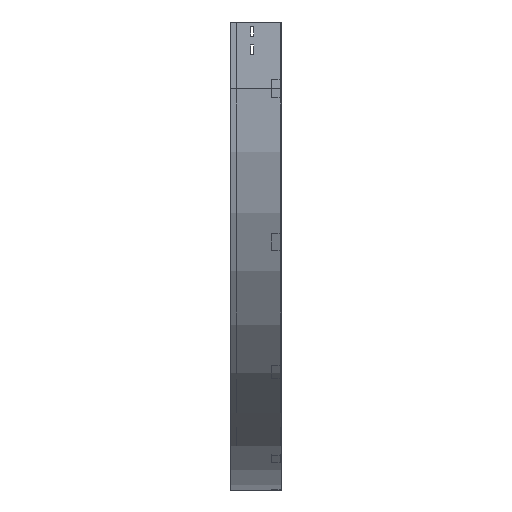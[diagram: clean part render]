
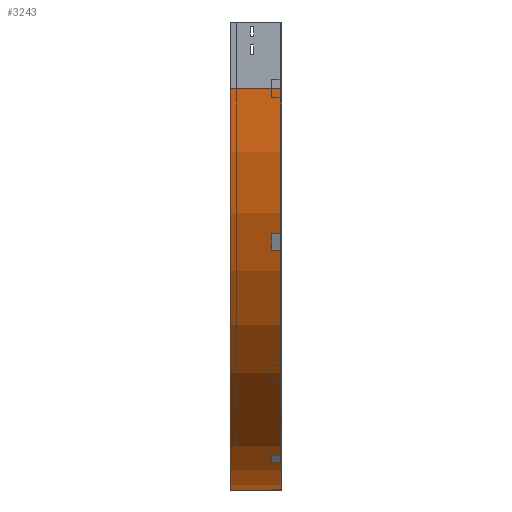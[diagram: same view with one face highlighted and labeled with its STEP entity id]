
A CAD part, left-side view. The second image highlights one B-rep face of the part: STEP entity #3243.
In plain terms, the highlighted cylindrical face has radius 900 mm (diameter 1800 mm), a partial arc.
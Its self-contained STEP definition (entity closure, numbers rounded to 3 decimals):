
#18 = DIRECTION ( 'NONE',  ( 0., -1., 0. ) ) ;
#71 = CARTESIAN_POINT ( 'NONE',  ( 900., 112.5, -1050. ) ) ;
#233 = ORIENTED_EDGE ( 'NONE', *, *, #2459, .F. ) ;
#267 = AXIS2_PLACEMENT_3D ( 'NONE', #2770, #443, #369 ) ;
#347 = VERTEX_POINT ( 'NONE', #71 ) ;
#369 = DIRECTION ( 'NONE',  ( 0., 0., -1. ) ) ;
#429 = AXIS2_PLACEMENT_3D ( 'NONE', #1132, #18, #915 ) ;
#443 = DIRECTION ( 'NONE',  ( 0., -1., 0. ) ) ;
#532 = LINE ( 'NONE', #2708, #2876 ) ;
#659 = DIRECTION ( 'NONE',  ( 0., -1., 0. ) ) ;
#685 = DIRECTION ( 'NONE',  ( 0., -1., 0. ) ) ;
#915 = DIRECTION ( 'NONE',  ( -1., 0., 0. ) ) ;
#959 = VERTEX_POINT ( 'NONE', #3001 ) ;
#1029 = CYLINDRICAL_SURFACE ( 'NONE', #267, 900. ) ;
#1050 = EDGE_CURVE ( 'NONE', #347, #959, #532, .T. ) ;
#1053 = EDGE_CURVE ( 'NONE', #2275, #347, #1181, .T. ) ;
#1089 = ORIENTED_EDGE ( 'NONE', *, *, #1050, .T. ) ;
#1132 = CARTESIAN_POINT ( 'NONE',  ( 900., 112.5, -150. ) ) ;
#1181 = CIRCLE ( 'NONE', #429, 900. ) ;
#1204 = VECTOR ( 'NONE', #659, 1000. ) ;
#1234 = EDGE_LOOP ( 'NONE', ( #233, #3004, #3778, #1089 ) ) ;
#1385 = DIRECTION ( 'NONE',  ( -1., 0., 0. ) ) ;
#1568 = LINE ( 'NONE', #3346, #1204 ) ;
#1601 = EDGE_CURVE ( 'NONE', #2275, #2886, #1568, .T. ) ;
#2000 = DIRECTION ( 'NONE',  ( 0., -1., 0. ) ) ;
#2109 = CARTESIAN_POINT ( 'NONE',  ( 0., 0., -150. ) ) ;
#2185 = AXIS2_PLACEMENT_3D ( 'NONE', #3443, #2000, #1385 ) ;
#2275 = VERTEX_POINT ( 'NONE', #3406 ) ;
#2459 = EDGE_CURVE ( 'NONE', #2886, #959, #2931, .T. ) ;
#2708 = CARTESIAN_POINT ( 'NONE',  ( 900., 0., -1050. ) ) ;
#2770 = CARTESIAN_POINT ( 'NONE',  ( 900., 0., -150. ) ) ;
#2876 = VECTOR ( 'NONE', #685, 1000. ) ;
#2886 = VERTEX_POINT ( 'NONE', #2109 ) ;
#2931 = CIRCLE ( 'NONE', #2185, 900. ) ;
#3001 = CARTESIAN_POINT ( 'NONE',  ( 900., 0., -1050. ) ) ;
#3004 = ORIENTED_EDGE ( 'NONE', *, *, #1601, .F. ) ;
#3243 = ADVANCED_FACE ( 'NONE', ( #3717 ), #1029, .T. ) ;
#3346 = CARTESIAN_POINT ( 'NONE',  ( 0., 0., -150. ) ) ;
#3406 = CARTESIAN_POINT ( 'NONE',  ( 0., 112.5, -150. ) ) ;
#3443 = CARTESIAN_POINT ( 'NONE',  ( 900., 0., -150. ) ) ;
#3717 = FACE_OUTER_BOUND ( 'NONE', #1234, .T. ) ;
#3778 = ORIENTED_EDGE ( 'NONE', *, *, #1053, .T. ) ;
